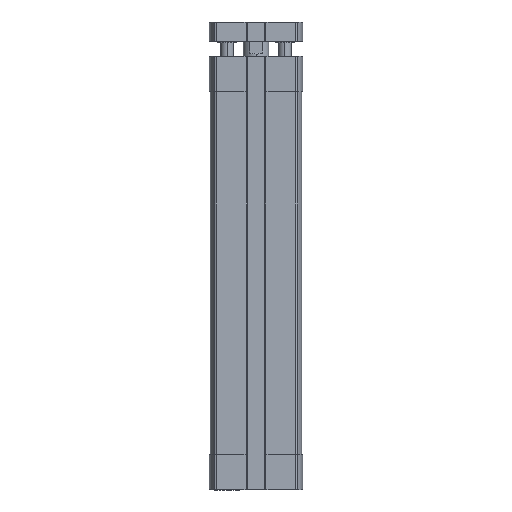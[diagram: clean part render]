
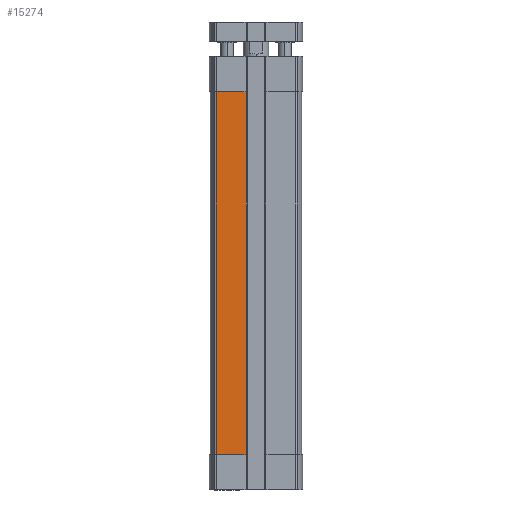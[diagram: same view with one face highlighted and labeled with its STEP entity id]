
A CAD part, front view. The second image highlights one B-rep face of the part: STEP entity #15274.
In plain terms, the highlighted planar face has unit normal (0, -1, 0) as drawn and (-1, 0, 0) by its records, which use the part's own axes.
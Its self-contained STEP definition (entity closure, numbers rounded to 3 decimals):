
#944 = DIRECTION ( 'NONE',  ( 0., 0., -1. ) ) ;
#1408 = CARTESIAN_POINT ( 'NONE',  ( -14.25, 12.347, -124. ) ) ;
#2180 = CARTESIAN_POINT ( 'NONE',  ( -14.25, 3.1, -11. ) ) ;
#2321 = VECTOR ( 'NONE', #2753, 1000. ) ;
#2753 = DIRECTION ( 'NONE',  ( 0., -1., 0. ) ) ;
#2853 = ORIENTED_EDGE ( 'NONE', *, *, #15644, .T. ) ;
#3315 = CARTESIAN_POINT ( 'NONE',  ( -14.25, 3.1, -124. ) ) ;
#3810 = FACE_OUTER_BOUND ( 'NONE', #4551, .T. ) ;
#3893 = CARTESIAN_POINT ( 'NONE',  ( -14.25, 12.347, -124. ) ) ;
#3941 = LINE ( 'NONE', #3315, #10608 ) ;
#4551 = EDGE_LOOP ( 'NONE', ( #2853, #7786, #6365, #12722 ) ) ;
#4659 = DIRECTION ( 'NONE',  ( 0., 0., 1. ) ) ;
#4673 = DIRECTION ( 'NONE',  ( 0., 0., 1. ) ) ;
#5232 = CARTESIAN_POINT ( 'NONE',  ( -14.25, 3.1, -124. ) ) ;
#5345 = CARTESIAN_POINT ( 'NONE',  ( -14.25, 0., -11. ) ) ;
#5680 = VERTEX_POINT ( 'NONE', #2180 ) ;
#5902 = LINE ( 'NONE', #1408, #2321 ) ;
#6365 = ORIENTED_EDGE ( 'NONE', *, *, #11175, .T. ) ;
#7265 = CARTESIAN_POINT ( 'NONE',  ( -14.25, 12.347, -11. ) ) ;
#7786 = ORIENTED_EDGE ( 'NONE', *, *, #13637, .T. ) ;
#7931 = LINE ( 'NONE', #12957, #13352 ) ;
#9950 = PLANE ( 'NONE',  #16488 ) ;
#10608 = VECTOR ( 'NONE', #4673, 1000. ) ;
#10617 = VERTEX_POINT ( 'NONE', #3893 ) ;
#11117 = VERTEX_POINT ( 'NONE', #5232 ) ;
#11175 = EDGE_CURVE ( 'NONE', #5680, #11449, #15328, .T. ) ;
#11449 = VERTEX_POINT ( 'NONE', #7265 ) ;
#11772 = VECTOR ( 'NONE', #13330, 1000. ) ;
#12620 = DIRECTION ( 'NONE',  ( -1., 0., 0. ) ) ;
#12722 = ORIENTED_EDGE ( 'NONE', *, *, #13228, .T. ) ;
#12957 = CARTESIAN_POINT ( 'NONE',  ( -14.25, 12.347, -124. ) ) ;
#13228 = EDGE_CURVE ( 'NONE', #11449, #10617, #7931, .T. ) ;
#13330 = DIRECTION ( 'NONE',  ( 0., 1., 0. ) ) ;
#13352 = VECTOR ( 'NONE', #944, 1000. ) ;
#13637 = EDGE_CURVE ( 'NONE', #11117, #5680, #3941, .T. ) ;
#15241 = CARTESIAN_POINT ( 'NONE',  ( -14.25, 12.347, -124. ) ) ;
#15274 = ADVANCED_FACE ( 'NONE', ( #3810 ), #9950, .T. ) ;
#15328 = LINE ( 'NONE', #5345, #11772 ) ;
#15644 = EDGE_CURVE ( 'NONE', #10617, #11117, #5902, .T. ) ;
#16488 = AXIS2_PLACEMENT_3D ( 'NONE', #15241, #12620, #4659 ) ;
